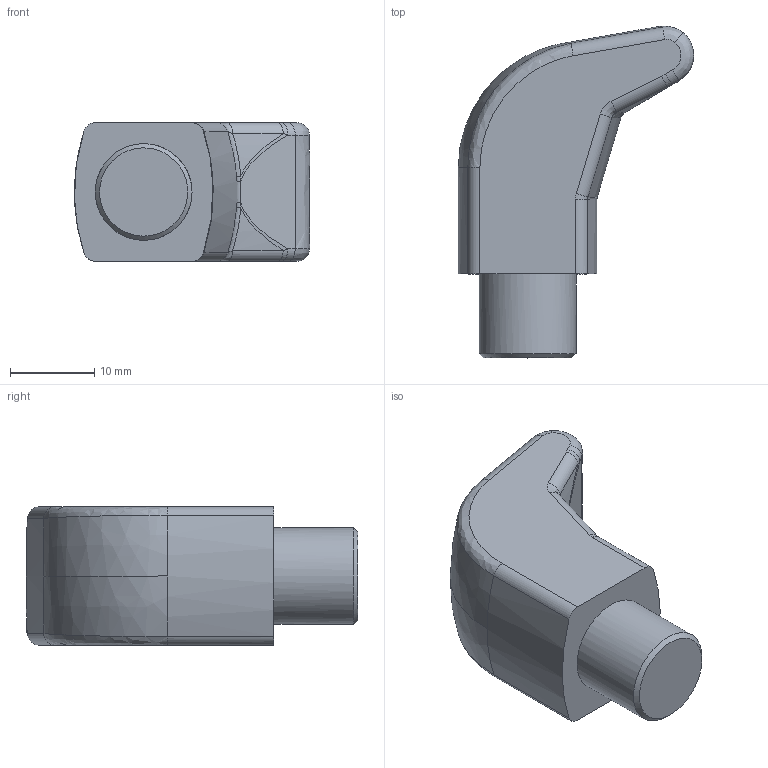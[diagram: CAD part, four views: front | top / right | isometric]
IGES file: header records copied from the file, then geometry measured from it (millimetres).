
Global section: file name: DR_C-M57-1; native system: Autodesk Inventor 2015; preprocessor: unknown; author: user; date: 20190221.143020; units: millimetre
Bounding box: 28 x 39.5 x 16.5 mm (x, y, z)
Volume: 9071.4 mm3; surface area: 2788.2 mm2
Topology: 1 solids, 1 shells, 50 faces, 117 edges, 68 vertices
Faces by surface type: bspline 50
